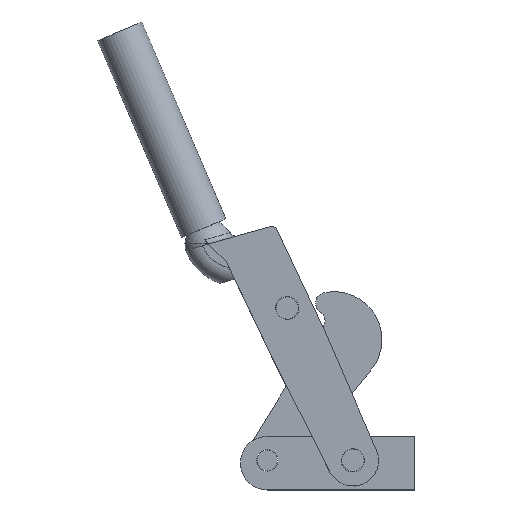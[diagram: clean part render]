
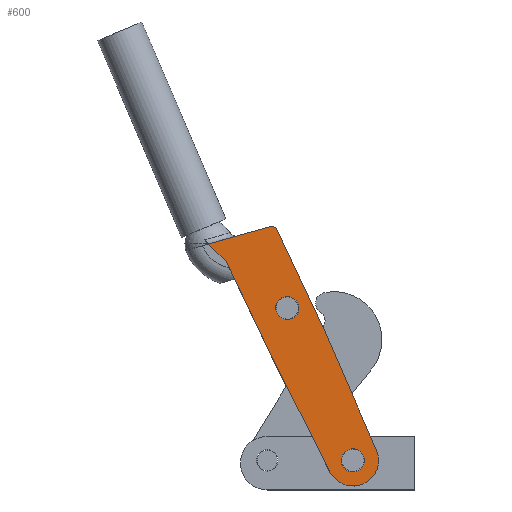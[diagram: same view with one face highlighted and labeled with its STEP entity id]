
A CAD part, top view. The second image highlights one B-rep face of the part: STEP entity #600.
In plain terms, the highlighted planar face has unit normal (0, 0, 1).
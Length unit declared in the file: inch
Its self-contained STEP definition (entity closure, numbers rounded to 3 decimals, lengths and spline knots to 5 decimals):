
#600 = ADVANCED_FACE( '', ( #801, #802, #803 ), #804, .T. );
#801 = FACE_OUTER_BOUND( '', #1122, .T. );
#802 = FACE_BOUND( '', #1123, .T. );
#803 = FACE_BOUND( '', #1124, .T. );
#804 = PLANE( '', #1125 );
#1122 = EDGE_LOOP( '', ( #1735, #1736, #1737, #1738, #1739, #1740, #1741, #1742, #1743 ) );
#1123 = EDGE_LOOP( '', ( #1744, #1745 ) );
#1124 = EDGE_LOOP( '', ( #1746, #1747 ) );
#1125 = AXIS2_PLACEMENT_3D( '', #1748, #1749, #1750 );
#1735 = ORIENTED_EDGE( '', *, *, #2678, .T. );
#1736 = ORIENTED_EDGE( '', *, *, #2647, .T. );
#1737 = ORIENTED_EDGE( '', *, *, #2679, .T. );
#1738 = ORIENTED_EDGE( '', *, *, #2680, .T. );
#1739 = ORIENTED_EDGE( '', *, *, #2681, .T. );
#1740 = ORIENTED_EDGE( '', *, *, #2682, .T. );
#1741 = ORIENTED_EDGE( '', *, *, #2683, .T. );
#1742 = ORIENTED_EDGE( '', *, *, #2684, .T. );
#1743 = ORIENTED_EDGE( '', *, *, #2685, .T. );
#1744 = ORIENTED_EDGE( '', *, *, #2661, .F. );
#1745 = ORIENTED_EDGE( '', *, *, #2675, .F. );
#1746 = ORIENTED_EDGE( '', *, *, #2637, .F. );
#1747 = ORIENTED_EDGE( '', *, *, #2686, .F. );
#1748 = CARTESIAN_POINT( '', ( -1.435, 0.69, 0.84 ) );
#1749 = DIRECTION( '', ( 0., 0., 1. ) );
#1750 = DIRECTION( '', ( 1., 0., 0. ) );
#2637 = EDGE_CURVE( '', #3095, #3098, #3099, .T. );
#2647 = EDGE_CURVE( '', #3112, #3116, #3118, .T. );
#2661 = EDGE_CURVE( '', #3142, #3145, #3146, .T. );
#2675 = EDGE_CURVE( '', #3145, #3142, #3168, .T. );
#2678 = EDGE_CURVE( '', #3171, #3112, #3172, .T. );
#2679 = EDGE_CURVE( '', #3116, #3173, #3174, .T. );
#2680 = EDGE_CURVE( '', #3173, #3175, #3176, .T. );
#2681 = EDGE_CURVE( '', #3175, #3177, #3178, .T. );
#2682 = EDGE_CURVE( '', #3177, #3179, #3180, .T. );
#2683 = EDGE_CURVE( '', #3179, #3181, #3182, .T. );
#2684 = EDGE_CURVE( '', #3181, #3183, #3184, .T. );
#2685 = EDGE_CURVE( '', #3183, #3171, #3185, .T. );
#2686 = EDGE_CURVE( '', #3098, #3095, #3186, .T. );
#3095 = VERTEX_POINT( '', #3784 );
#3098 = VERTEX_POINT( '', #3788 );
#3099 = CIRCLE( '', #3789, 0.27 );
#3112 = VERTEX_POINT( '', #3805 );
#3116 = VERTEX_POINT( '', #3810 );
#3118 = CIRCLE( '', #3813, 0.6 );
#3142 = VERTEX_POINT( '', #3844 );
#3145 = VERTEX_POINT( '', #3848 );
#3146 = CIRCLE( '', #3849, 0.27 );
#3168 = CIRCLE( '', #3878, 0.27 );
#3171 = VERTEX_POINT( '', #3881 );
#3172 = CIRCLE( '', #3882, 0.6 );
#3173 = VERTEX_POINT( '', #3883 );
#3174 = LINE( '', #3884, #3885 );
#3175 = VERTEX_POINT( '', #3886 );
#3176 = LINE( '', #3887, #3888 );
#3177 = VERTEX_POINT( '', #3889 );
#3178 = CIRCLE( '', #3890, 0.15 );
#3179 = VERTEX_POINT( '', #3891 );
#3180 = LINE( '', #3892, #3893 );
#3181 = VERTEX_POINT( '', #3894 );
#3182 = LINE( '', #3895, #3896 );
#3183 = VERTEX_POINT( '', #3897 );
#3184 = LINE( '', #3898, #3899 );
#3185 = LINE( '', #3900, #3901 );
#3186 = CIRCLE( '', #3902, 0.27 );
#3784 = CARTESIAN_POINT( '', ( -2.69928, 4.24411, 0.84 ) );
#3788 = CARTESIAN_POINT( '', ( -3.23921, 4.25255, 0.84 ) );
#3789 = AXIS2_PLACEMENT_3D( '', #4655, #4656, #4657 );
#3805 = CARTESIAN_POINT( '', ( -0.83507, 0.68062, 0.84 ) );
#3810 = CARTESIAN_POINT( '', ( -0.88457, 0.92881, 0.84 ) );
#3813 = AXIS2_PLACEMENT_3D( '', #4675, #4676, #4677 );
#3844 = CARTESIAN_POINT( '', ( -1.16503, 0.68578, 0.84 ) );
#3848 = CARTESIAN_POINT( '', ( -1.70497, 0.69422, 0.84 ) );
#3849 = AXIS2_PLACEMENT_3D( '', #4708, #4709, #4710 );
#3878 = AXIS2_PLACEMENT_3D( '', #4736, #4737, #4738 );
#3881 = CARTESIAN_POINT( '', ( -1.97001, 0.4184, 0.84 ) );
#3882 = AXIS2_PLACEMENT_3D( '', #4745, #4746, #4747 );
#3883 = CARTESIAN_POINT( '', ( -2.07464, 3.67177, 0.84 ) );
#3884 = CARTESIAN_POINT( '', ( -0.88457, 0.92881, 0.84 ) );
#3885 = VECTOR( '', #4748, 1. );
#3886 = CARTESIAN_POINT( '', ( -3.20107, 6.06725, 0.84 ) );
#3887 = CARTESIAN_POINT( '', ( -2.07464, 3.67177, 0.84 ) );
#3888 = VECTOR( '', #4749, 1. );
#3889 = CARTESIAN_POINT( '', ( -3.37744, 6.14781, 0.84 ) );
#3890 = AXIS2_PLACEMENT_3D( '', #4750, #4751, #4752 );
#3891 = CARTESIAN_POINT( '', ( -4.80686, 5.74565, 0.84 ) );
#3892 = CARTESIAN_POINT( '', ( -3.37744, 6.14781, 0.84 ) );
#3893 = VECTOR( '', #4753, 1. );
#3894 = CARTESIAN_POINT( '', ( -4.39341, 5.3364, 0.84 ) );
#3895 = CARTESIAN_POINT( '', ( -4.80686, 5.74565, 0.84 ) );
#3896 = VECTOR( '', #4754, 1. );
#3897 = CARTESIAN_POINT( '', ( -3.32346, 3.08454, 0.84 ) );
#3898 = CARTESIAN_POINT( '', ( -4.39341, 5.3364, 0.84 ) );
#3899 = VECTOR( '', #4755, 1. );
#3900 = CARTESIAN_POINT( '', ( -3.32346, 3.08454, 0.84 ) );
#3901 = VECTOR( '', #4756, 1. );
#3902 = AXIS2_PLACEMENT_3D( '', #4757, #4758, #4759 );
#4655 = CARTESIAN_POINT( '', ( -2.96924, 4.24833, 0.84 ) );
#4656 = DIRECTION( '', ( 0., 0., 1. ) );
#4657 = DIRECTION( '', ( 1., -0.016, 0. ) );
#4675 = CARTESIAN_POINT( '', ( -1.435, 0.69, 0.84 ) );
#4676 = DIRECTION( '', ( 0., 0., 1. ) );
#4677 = DIRECTION( '', ( -0.892, -0.453, 0. ) );
#4708 = CARTESIAN_POINT( '', ( -1.435, 0.69, 0.84 ) );
#4709 = DIRECTION( '', ( 0., 0., 1. ) );
#4710 = DIRECTION( '', ( 1., -0.016, 0. ) );
#4736 = CARTESIAN_POINT( '', ( -1.435, 0.69, 0.84 ) );
#4737 = DIRECTION( '', ( 0., 0., 1. ) );
#4738 = DIRECTION( '', ( 1., -0.016, 0. ) );
#4745 = CARTESIAN_POINT( '', ( -1.435, 0.69, 0.84 ) );
#4746 = DIRECTION( '', ( 0., 0., 1. ) );
#4747 = DIRECTION( '', ( -0.892, -0.453, 0. ) );
#4748 = DIRECTION( '', ( -0.398, 0.917, 0. ) );
#4749 = DIRECTION( '', ( -0.426, 0.905, 0. ) );
#4750 = CARTESIAN_POINT( '', ( -3.33681, 6.00342, 0.84 ) );
#4751 = DIRECTION( '', ( 0., 0., 1. ) );
#4752 = DIRECTION( '', ( 0.905, 0.426, 0. ) );
#4753 = DIRECTION( '', ( -0.963, -0.271, 0. ) );
#4754 = DIRECTION( '', ( 0.711, -0.703, 0. ) );
#4755 = DIRECTION( '', ( 0.429, -0.903, 0. ) );
#4756 = DIRECTION( '', ( 0.453, -0.892, 0. ) );
#4757 = CARTESIAN_POINT( '', ( -2.96924, 4.24833, 0.84 ) );
#4758 = DIRECTION( '', ( 0., 0., 1. ) );
#4759 = DIRECTION( '', ( 1., -0.016, 0. ) );
